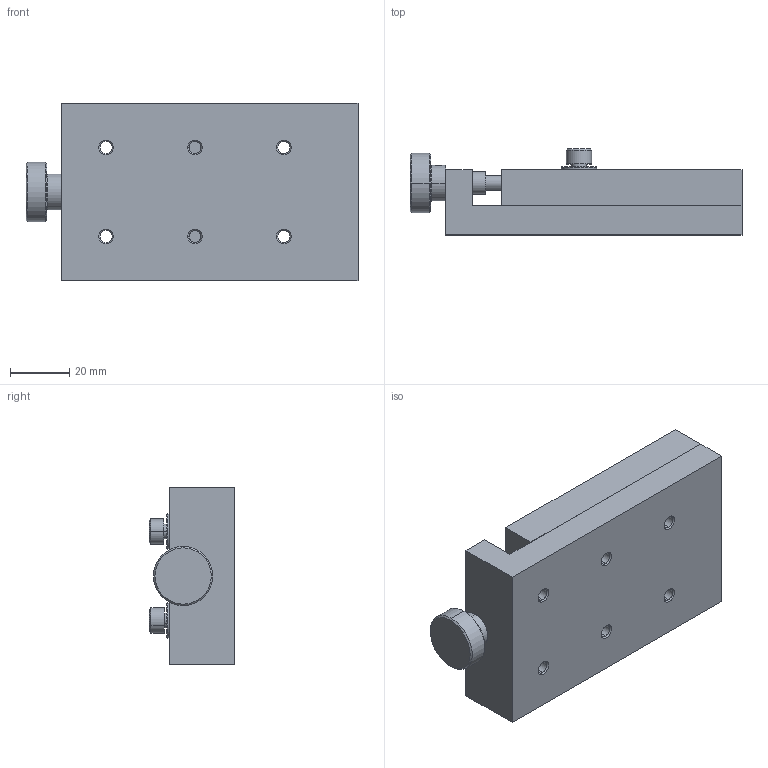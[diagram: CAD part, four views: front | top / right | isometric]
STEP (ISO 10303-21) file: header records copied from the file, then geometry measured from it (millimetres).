
FILE_DESCRIPTION (( 'STEP AP203' ), '1' );
FILE_NAME ('BHA60.STEP', '2024-03-04T02:02:44', ( 'China' ), ( 'Microsoft' ), 'SwSTEP 2.0', 'SolidWorks 2024', '' );
FILE_SCHEMA (( 'CONFIG_CONTROL_DESIGN' ));
Length unit declared in the file: millimetre
Products named in the file (1): BHA60
Bounding box: 112 x 29 x 60 mm (x, y, z)
Volume: 121506.9 mm3; surface area: 38773.3 mm2
Topology: 9 solids, 9 shells, 254 faces, 572 edges, 342 vertices
Faces by surface type: cone 90, plane 89, cylinder 73, torus 2
Entity records: 7187 total; most frequent: DIRECTION 1320, CARTESIAN_POINT 1241, ORIENTED_EDGE 1128, EDGE_CURVE 564, AXIS2_PLACEMENT_3D 505, VERTEX_POINT 342, LINE 310, VECTOR 310
